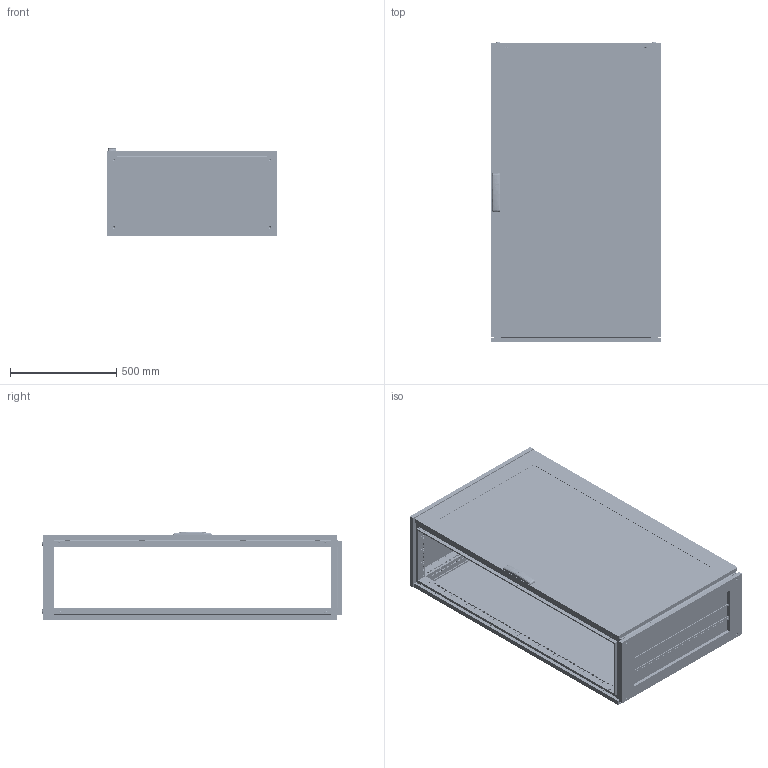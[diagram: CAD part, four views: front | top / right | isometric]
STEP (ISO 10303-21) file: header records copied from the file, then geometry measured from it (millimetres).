
FILE_DESCRIPTION (( 'STEP AP203' ), '1' );
FILE_NAME ('R5CQEN1484AX.STEP', '2025-05-16T07:03:38', ( '' ), ( '' ), 'SwSTEP 2.0', 'SolidWorks 2022', '' );
FILE_SCHEMA (( 'CONFIG_CONTROL_DESIGN' ));
Length unit declared in the file: millimetre
Products named in the file (66): R5NKTB - Assem simple_H=1400 R5NKTB84.STEP; Pin 4x16 DIN 7 AISI 303 (A1) simple.STEP; PF 7,5x15 CPE simple_1400x0800.STEP; TPA.08.0084.00.00.0 simple.STEP; M6x15 Erickson cl.4,8 Zinc.STEP; Glue CPTE simple_1400x0800.STEP; M6x10 DIN 912 HX cl.8,8 Zinc_straight.STEP; RB.2969.00.00.0 СБ simple.STEP; R5NCPTE - Assem simple_R5NCPTE1480.STEP; RB.1633.00.01.0 simple_-03.STEP; Square cap 20x20 simple.STEP; Pressing stud FH-M6-12_M6x12mm.STEP; RB.0054.01.01.0 simple_-07.STEP; RB.2499.01.00.0 СБ simple_-17.STEP; RB.2528.00.00.0 simple_-02.STEP; RB.1867.01.00.0 СБ simple_-27.STEP; RB.2499.00.00.0 СБ simple_-18.STEP; RB.2680.00.02.0 simple.STEP; RB.2457.00.00.0 СБ simple_-18.STEP; RB.0562.01.01.0 simple_-07.STEP; TPA.08.0083.00.00.0 simple.STEP; RB.2969.00.01.0 simple.STEP; RB.2052.01.00.0 СБ simple_-07.STEP; RB.2357.00.00.0 simple_-05.STEP; Glass CPTE_1400x0800.STEP; M6 DIN 985 cl.6,0 Zinc_straight.STEP; 7 DIN 6799 Zinc simple.STEP; PF 7x14 CRE simple_1400x0800.STEP; RB.2968.00.00.0 simple.STEP; M8x12 AC00C476 cl.8,8 Zinc_stright.STEP; M12x16 ISO 7380-1 HX cl.4,8 Zinc_straight; RB.0528.00.01.0 simple_-02.STEP; RB.2680.00.01.0 simple.STEP; RB.2052.00.00.0 СБ simple_-07.STEP; RB.2755.00.00.0 СБ simple_-18.STEP; 4,0x16 F Torx Zinc (ART 88200)_thread.STEP; AC00C446-R.STEP; M6x10 DIN 7500 M Torx cl.5.8 Zinc_straight.STEP; RB.1867.01.01.0 simple_-12.STEP; RB.1633.00.02.0 simple_default.STEP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
Assembly tree (173 placements, depth 5):
  R5CQEN1484AX
    R5NCPTE - Assem simple_R5NCPTE1480.STEP
      RB.0562.00.00.0 СБ simple_-07.STEP
        RB.0562.01.00.0 СБ simple_-07.STEP
          RB.0562.01.01.0 simple_-07.STEP
          М6х12 A5100231_straight.STEP  x7
          RB.2702.00.00.0 simple.STEP  x4
          PF 7,5x15 CPE simple_1400x0800.STEP
          Glass CPTE_1400x0800.STEP
          Glue CPTE simple_1400x0800.STEP
        RB.2680.00.00.0 СБ simple.STEP
          TPA.08.0139.00.01.0 simple.STEP
          RB.2680.00.01.0 simple.STEP
          RB.2680.00.02.0 simple.STEP  x2
        RB.0528.04.00.0 СБ simple.STEP  x2
          RB.0528.04.01.0 simple.STEP
          Pressing stud FH-M6-12_M6x12mm.STEP
        Square cap 20x20 simple.STEP  x2
        M6x15 Erickson cl.4,8 Zinc.STEP  x2
        RB.0528.00.01.0 simple_-02.STEP  x2
        ATOS Traction guide ILY03.35.STEP  x4
        RB.2357.00.00.0 simple_-05.STEP
        TPA.08.0139.00.03.0.STEP  x2
        M6 DIN 985 cl.6,0 Zinc_straight.STEP  x4
        4,0x16 F Torx Zinc (ART 88200)_thread.STEP  x2
      RB.2969.00.00.0 СБ simple.STEP  x4
        RB.2969.00.01.0 simple.STEP
        Pin 4x16 DIN 7 AISI 303 (A1) simple.STEP
        M6 MGR-MKO-0625 simple_Thread.STEP
      M6x10 DIN 912 HX cl.8,8 Zinc_straight.STEP  x8
      4.8x13 DIN 7981 PH Zinc_straight.STEP
      7 DIN 6799 Zinc simple.STEP  x4
      RB.2968.00.00.0 simple.STEP  x4
      AC00C446-R.STEP
      RB.2696.00.00.0 simple.STEP  x4
      7 DIN 6799 Zinc.STEP  x4
    R5NCRE-Assem simple_R5NCRE1480.STEP
      RB.2052.00.00.0 СБ simple_-07.STEP
        RB.2052.01.00.0 СБ simple_-07.STEP
          RB.0054.01.01.0 simple_-07.STEP
          М6х12 A5100231_straight.STEP  x4
        PF 7x14 CRE simple_1400x0800.STEP
      RB.2172.00.00.1 simple.STEP  x8
      M6x10 DIN 7500 E HX cl.5.8 Zinc_straight.STEP  x8
      M6x10 DIN 7500 M Torx cl.5.8 Zinc_straight.STEP  x8
    R5NKMN - Assem simple_R5NKMN14 (800х400).STEP
      RB.2528.00.00.0 simple_-02.STEP  x4
    R5NKTB - Assem simple_H=1400 R5NKTB84.STEP
      RB.2499.00.00.0 СБ simple_-18.STEP
        RB.2499.01.00.0 СБ simple_-17.STEP
          RB.1633.00.01.0 simple_-03.STEP  x2
          RB.1633.00.02.0 simple_default.STEP  x2
          PF 5x10 KTB simple_800x400.STEP
        RB.2457.00.00.0 СБ simple_-18.STEP
          RB.2455.00.00.0 simple_-03.STEP  x2
          RB.2456.00.00.0 simple.STEP  x2
          TPA.08.0084.00.00.0 simple.STEP  x2
          TPA.08.0083.00.00.0 simple.STEP  x2
          M8x12 AC00C476 cl.8,8 Zinc_stright.STEP  x4
        RB.1728.00.00.0 simple_-02.STEP  x3
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Bounding box: 800 x 1413.3 x 414.74 mm (x, y, z)
Volume: 13350541 mm3; surface area: 11390747.8 mm2
Topology: 176 solids, 192 shells, 19297 faces, 54382 edges, 35722 vertices
Faces by surface type: plane 10907, cylinder 6849, cone 704, bspline 435, torus 368, sphere 34
Entity records: 198751 total; most frequent: CARTESIAN_POINT 51821, ORIENTED_EDGE 28912, DIRECTION 27401, EDGE_CURVE 14482, VERTEX_POINT 9566, AXIS2_PLACEMENT_3D 9210, LINE 8981, VECTOR 8981
